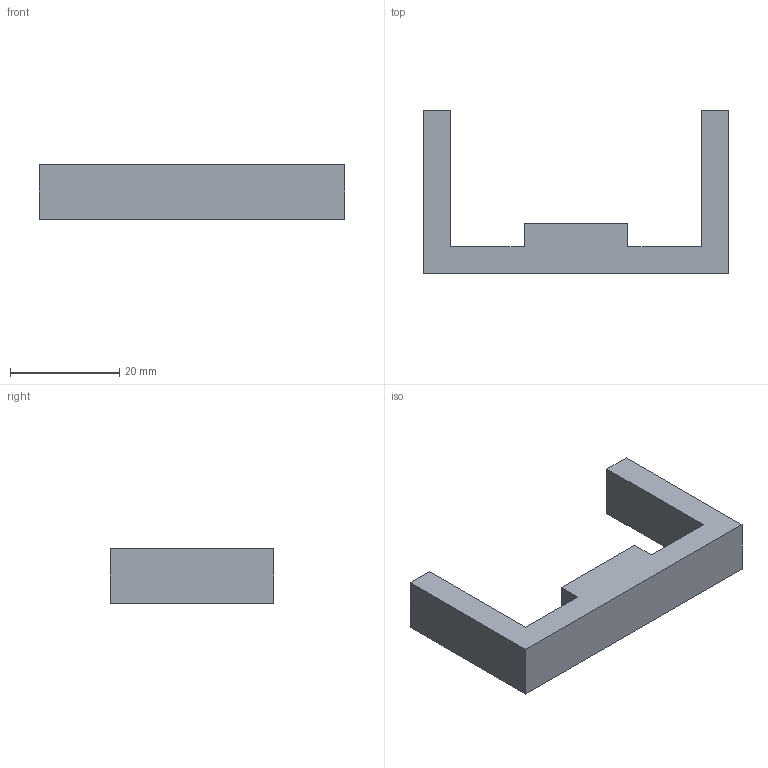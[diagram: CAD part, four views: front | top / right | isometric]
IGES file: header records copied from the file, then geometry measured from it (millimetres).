
Start section: SolidWorks IGES file using analytic representation for surfaces
Global section: file name: C:\Documents and Settings\ARGE\Desktop\yeni katalog tolgay düzenli\E kataloðu\ALPOLEN 1000 KANALLI ZÝNCÝR KIZAKLARI\207 OT2 114.IGS; native system: SolidWorks 2006 by SolidWorks Corporation; preprocessor: SolidWorks 2006 by SolidWorks Corporation; author: ARGE2; date: 060912.183201; units: millimetre
Bounding box: 56 x 30 x 10 mm (x, y, z)
Surface area: 3529.4 mm2 (no closed solid volume)
Topology: 0 solids, 0 shells, 14 faces, 72 edges, 72 vertices
Faces by surface type: bspline 14
